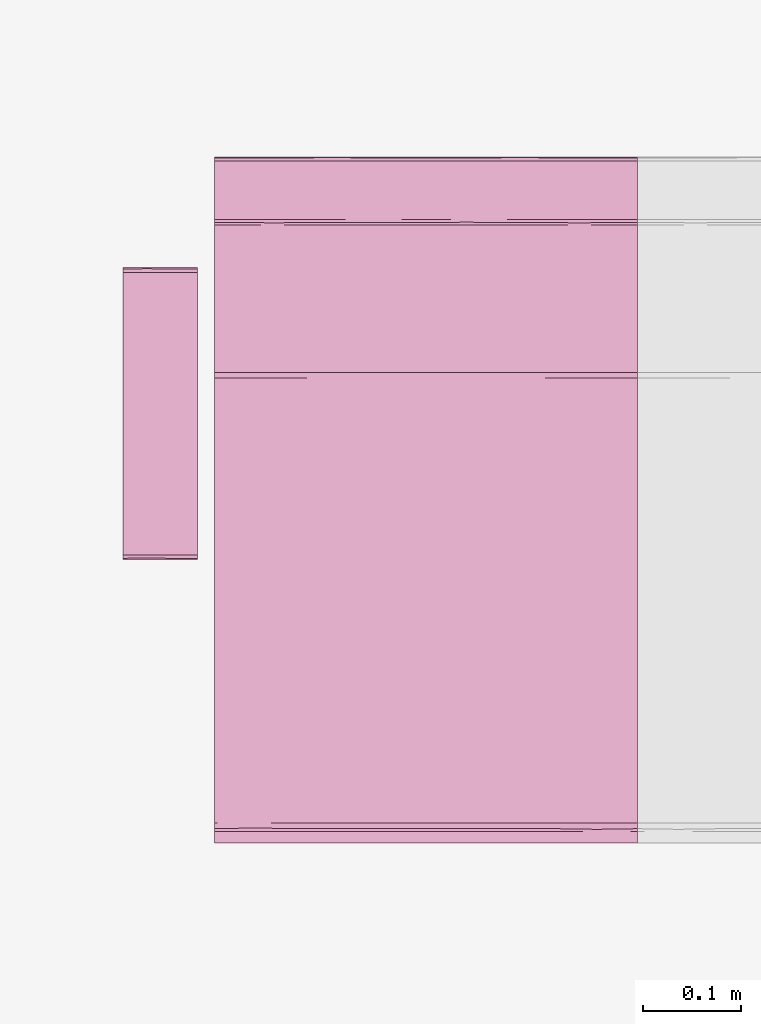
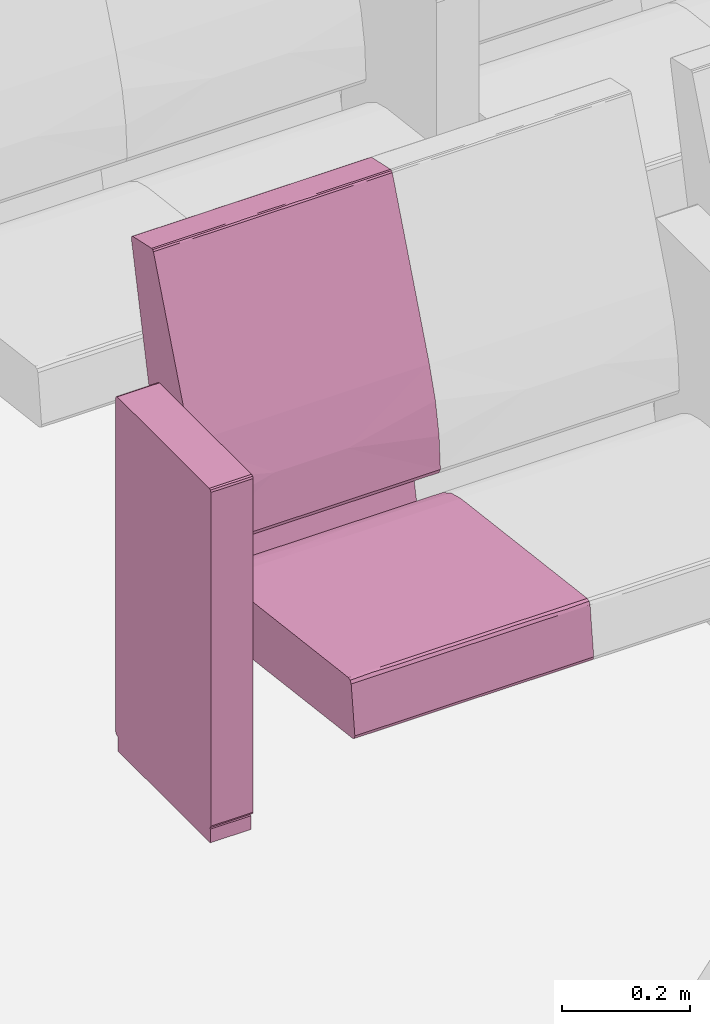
# One storey, part 88 of 155: 1 furnishing.
"""IFC2X3 building model written with IfcOpenShell, lengths in metres."""

import ifcopenshell
import ifcopenshell.guid

model = None  # the IFC model being written
_history = None  # IfcOwnerHistory: only IFC2X3 demands one
_inside = {}  # id of a spatial element -> (the spatial element, [elements in it])
_under = {}  # id of a project, library or spatial element -> (it, [spatial elements below it])
_declared = {}  # id of a project -> (the project, [libraries it declares])
_typed = {}  # id of a type object -> (the type object, [elements of that type])
_made_of = {}  # id of a material, layer set ... -> (it, [elements and type objects made of it])


def new_model(schema):
    """Start an empty IFC model of exactly this schema.

    Asked for "IFC4X3", IfcOpenShell would pick the latest addendum, in which some entities
    have other attributes; the version numbers below select the first issue.
    IFC2X3 requires an IfcOwnerHistory on every rooted entity: one is made here for all.
    """
    global model, _history
    if schema == "IFC4X3":
        model = ifcopenshell.file(schema_version=(4, 3, 0, 0))
    else:
        model = ifcopenshell.file(schema=schema)
    _inside.clear()
    _under.clear()
    _declared.clear()
    _typed.clear()
    _made_of.clear()
    _history = None
    if model.schema == "IFC2X3":
        org = make("IfcOrganization", Name="unknown")
        user = make(
            "IfcPersonAndOrganization",
            ThePerson=make("IfcPerson", FamilyName="unknown"),
            TheOrganization=org,
        )
        app = make(
            "IfcApplication",
            ApplicationDeveloper=org,
            Version="unknown",
            ApplicationFullName="unknown",
            ApplicationIdentifier="unknown",
        )
        _history = make(
            "IfcOwnerHistory",
            OwningUser=user,
            OwningApplication=app,
            ChangeAction="ADDED",
            CreationDate=0,
        )
    return model


def make(cls, **values):
    """One entity of the class cls with the attributes given. An attribute that is None is left unset."""
    return model.create_entity(
        cls, **{name: value for name, value in values.items() if value is not None}
    )


def entity(cls, *values):
    """Any entity or typed value of the class cls, its attributes in the order of the schema. None: left unset."""
    e = model.create_entity(cls)
    for i, value in enumerate(values):
        if value is not None:
            e[i] = value
    return e


def rooted(cls, **values):
    """An entity with a GlobalId (a new one), such as an element, a storey or a relation."""
    return make(cls, GlobalId=ifcopenshell.guid.new(), OwnerHistory=_history, **values)


def si_unit(unit_type, name, prefix=None):
    """IfcSIUnit, for example si_unit("LENGTHUNIT", "METRE", prefix="MILLI")."""
    return make("IfcSIUnit", UnitType=unit_type, Prefix=prefix, Name=name)


def converted_unit(unit_type, name, factor, base, dimensions=None, offset=None):
    """IfcConversionBasedUnit, such as the inch: factor (a typed value) times the base unit."""
    return make(
        "IfcConversionBasedUnit"
        if offset is None
        else "IfcConversionBasedUnitWithOffset",
        ConversionOffset=offset,
        Dimensions=None
        if dimensions is None
        else entity("IfcDimensionalExponents", *dimensions),
        UnitType=unit_type,
        Name=name,
        ConversionFactor=make(
            "IfcMeasureWithUnit", ValueComponent=factor, UnitComponent=base
        ),
    )


def derived_unit(unit_type, elements):
    """IfcDerivedUnit: a product of units, each with its exponent."""
    return make(
        "IfcDerivedUnit",
        Elements=[
            make("IfcDerivedUnitElement", Unit=unit, Exponent=power)
            for unit, power in elements
        ],
        UnitType=unit_type,
    )


def assignment(units):
    """IfcUnitAssignment: the units of a project."""
    return None if units is None else make("IfcUnitAssignment", Units=units)


def point(xyz):
    """IfcCartesianPoint."""
    return None if xyz is None else make("IfcCartesianPoint", Coordinates=xyz)


def direction(xyz):
    """IfcDirection."""
    return None if xyz is None else make("IfcDirection", DirectionRatios=xyz)


def frame(location, z_axis=None, x_axis=None):
    """IfcAxis2Placement3D, a coordinate frame: its origin and axes. An axis left out is left unset."""
    return make(
        "IfcAxis2Placement3D",
        Location=point(location),
        Axis=direction(z_axis),
        RefDirection=direction(x_axis),
    )


def origin():
    """The frame at (0, 0, 0) with its axes left unset."""
    return frame((0.0, 0.0, 0.0))


def place(relative_to, where):
    """IfcLocalPlacement: puts the frame where relative to a parent placement (None: the world)."""
    return make(
        "IfcLocalPlacement", PlacementRelTo=relative_to, RelativePlacement=where
    )


def context(
    kind, dimensions, precision=None, world=None, true_north=None, identifier=None
):
    """IfcGeometricRepresentationContext, for example the 3D "Model" context."""
    return make(
        "IfcGeometricRepresentationContext",
        ContextIdentifier=identifier,
        ContextType=kind,
        CoordinateSpaceDimension=dimensions,
        Precision=precision,
        WorldCoordinateSystem=world,
        TrueNorth=true_north,
    )


def subcontext(parent, identifier, kind, view, scale=None):
    """IfcGeometricRepresentationSubContext, for example "Body" below "Model"."""
    return make(
        "IfcGeometricRepresentationSubContext",
        ContextIdentifier=identifier,
        ContextType=kind,
        ParentContext=parent,
        TargetScale=scale,
        TargetView=view,
    )


def project(units=None, contexts=None):
    """IfcProject with its units and contexts."""
    return rooted(
        "IfcProject",
        Name="project",
        RepresentationContexts=contexts,
        UnitsInContext=assignment(units),
    )


def spatial(cls, under=None, at=None, **own):
    """A site, building, storey or space (cls), placed at a placement, below another one or the project."""
    s = rooted(cls, ObjectPlacement=at, **own)
    if under is not None:
        _under.setdefault(under.id(), (under, []))[1].append(s)
    return s


def faces_of(points, faces, orient=None, outer=None):
    """IfcFace entities. A face is a list of loops; a loop is a list of indices into points, from 0.

    orient and outer hold one flag for each loop. By default every Orientation is true, the
    first loop of a face is its IfcFaceOuterBound and the others are IfcFaceBound.
    """
    made = []
    for i, loops in enumerate(faces):
        bounds = []
        for j, loop in enumerate(loops):
            is_outer = j == 0 if outer is None else outer[i][j]
            bounds.append(
                make(
                    "IfcFaceOuterBound" if is_outer else "IfcFaceBound",
                    Bound=make("IfcPolyLoop", Polygon=[points[k] for k in loop]),
                    Orientation=True if orient is None else orient[i][j],
                )
            )
        made.append(make("IfcFace", Bounds=bounds))
    return made


def faceted_brep(points, faces, orient=None, outer=None, voids=None):
    """IfcFacetedBrep: a solid bounded by flat faces; with voids (closed shells), ...WithVoids."""
    shared = [point(p) for p in points]
    hull = make("IfcClosedShell", CfsFaces=faces_of(shared, faces, orient, outer))
    if voids is None:
        return make("IfcFacetedBrep", Outer=hull)
    return make(
        "IfcFacetedBrepWithVoids",
        Outer=hull,
        Voids=[
            make(cls, CfsFaces=faces_of(shared, fs, o, b)) for cls, fs, o, b in voids
        ],
    )


def shape(context_of_items, identifier, shape_type, items):
    """IfcShapeRepresentation: the items that make up one representation, for example the "Body"."""
    return make(
        "IfcShapeRepresentation",
        ContextOfItems=context_of_items,
        RepresentationIdentifier=identifier,
        RepresentationType=shape_type,
        Items=items,
    )


def source(mapping_origin, context_of_items, identifier, shape_type, items):
    """IfcRepresentationMap: a shape defined once, which mapped items show again and again."""
    return make(
        "IfcRepresentationMap",
        MappingOrigin=mapping_origin,
        MappedRepresentation=shape(context_of_items, identifier, shape_type, items),
    )


def transform(
    local_origin,
    x_axis=None,
    y_axis=None,
    z_axis=None,
    scale=None,
    scale2=None,
    scale3=None,
    uniform=True,
):
    """IfcCartesianTransformationOperator3D, or its non-uniform kind. x_axis, y_axis, z_axis: its Axis1, 2, 3."""
    if uniform:
        return make(
            "IfcCartesianTransformationOperator3D",
            Axis1=direction(x_axis),
            Axis2=direction(y_axis),
            LocalOrigin=point(local_origin),
            Scale=scale,
            Axis3=direction(z_axis),
        )
    return make(
        "IfcCartesianTransformationOperator3DnonUniform",
        Axis1=direction(x_axis),
        Axis2=direction(y_axis),
        LocalOrigin=point(local_origin),
        Scale=scale,
        Axis3=direction(z_axis),
        Scale2=scale2,
        Scale3=scale3,
    )


def mapped(mapping_source, mapping_target):
    """IfcMappedItem: shows the shape of a source again, moved by a transform."""
    return make(
        "IfcMappedItem", MappingSource=mapping_source, MappingTarget=mapping_target
    )


def material(Name=None, Category=None):
    """IfcMaterial."""
    return make("IfcMaterial", Name=Name, Category=Category)


def material_list(materials):
    """IfcMaterialList."""
    return make("IfcMaterialList", Materials=materials)


def made_of(thing, what):
    """Note that an element or type object is made of a material, layer set ...; save() writes the relation."""
    if what is not None:
        _made_of.setdefault(what.id(), (what, []))[1].append(thing)
    return thing


def type_object(cls, material=None, **own):
    """A type object (cls), such as IfcWallType, which elements share."""
    return made_of(rooted(cls, **own), material)


def type_shapes(of_type, sources):
    """Give a type object the sources (RepresentationMaps) that its elements show as mapped items."""
    of_type.RepresentationMaps = sources


def element(
    cls,
    number,
    at=None,
    inside=None,
    cuts=None,
    type_object=None,
    material=None,
    context=None,
    identifier="Body",
    shape_type=None,
    held_by="IfcProductDefinitionShape",
    body=None,
    shapes=None,
    **own,
):
    """One element of the class cls, such as IfcWall. Its Tag is "e" and its number.

    at: its placement. inside: the storey or other place that contains it. cuts: it is an
    opening in that element (IfcRelVoidsElement). A single representation is given by context,
    identifier, shape_type and body (its items); several are given by shapes. held_by: the class
    of the entity that holds the representations. save() writes the other relations.
    """
    e = rooted(cls, Tag="e%d" % number, ObjectPlacement=at, **own)
    if body is not None:
        shapes = [shape(context, identifier, shape_type, body)]
    if shapes is not None:
        e.Representation = make(held_by, Representations=shapes)
    if inside is not None:
        _inside.setdefault(inside.id(), (inside, []))[1].append(e)
    if cuts is not None:
        rooted(
            "IfcRelVoidsElement", RelatingBuildingElement=cuts, RelatedOpeningElement=e
        )
    if type_object is not None:
        _typed.setdefault(type_object.id(), (type_object, []))[1].append(e)
    return made_of(e, material)


def aggregate(whole, parts):
    """IfcRelAggregates: a whole, such as a stair, and the parts it consists of."""
    return rooted("IfcRelAggregates", RelatingObject=whole, RelatedObjects=parts)


def save(model, path):
    """Write the relations noted so far, then the file.

    IfcRelAggregates (storeys below a building ...), IfcRelContainedInSpatialStructure (elements
    in a storey), IfcRelDefinesByType, IfcRelAssociatesMaterial and IfcRelDeclares: one each for
    every whole, place, type object, material and project.
    """
    for whole, parts in _under.values():
        aggregate(whole, parts)
    for where, things in _inside.values():
        rooted(
            "IfcRelContainedInSpatialStructure",
            RelatedElements=things,
            RelatingStructure=where,
        )
    for kind, things in _typed.values():
        rooted("IfcRelDefinesByType", RelatedObjects=things, RelatingType=kind)
    for what, things in _made_of.values():
        rooted("IfcRelAssociatesMaterial", RelatedObjects=things, RelatingMaterial=what)
    for by, libraries in _declared.values():
        rooted("IfcRelDeclares", RelatingContext=by, RelatedDefinitions=libraries)
    model.write(path)


model = new_model("IFC2X3")

# Units and contexts
model_context = context("Model", 3, precision=1e-05, world=origin(), true_north=direction((6.12303176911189e-17, 1.0)))
body_context = subcontext(model_context, "Body", "Model", "MODEL_VIEW")
ifc_project = project(units=[si_unit("LENGTHUNIT", "METRE"), si_unit("AREAUNIT", "SQUARE_METRE"), si_unit("VOLUMEUNIT", "CUBIC_METRE"), converted_unit("PLANEANGLEUNIT", "DEGREE", entity("IfcRatioMeasure", 0.0174532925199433), si_unit("PLANEANGLEUNIT", "RADIAN"), dimensions=[0, 0, 0, 0, 0, 0, 0]), si_unit("MASSUNIT", "GRAM", prefix="KILO"), derived_unit("MASSDENSITYUNIT", [(si_unit("MASSUNIT", "GRAM", prefix="KILO"), 1), (si_unit("LENGTHUNIT", "METRE"), -3)]), si_unit("TIMEUNIT", "SECOND"), si_unit("FREQUENCYUNIT", "HERTZ"), si_unit("THERMODYNAMICTEMPERATUREUNIT", "DEGREE_CELSIUS"), derived_unit("THERMALTRANSMITTANCEUNIT", [(si_unit("MASSUNIT", "GRAM", prefix="KILO"), 1), (si_unit("THERMODYNAMICTEMPERATUREUNIT", "KELVIN"), -1), (si_unit("TIMEUNIT", "SECOND"), -3)]), derived_unit("VOLUMETRICFLOWRATEUNIT", [(si_unit("LENGTHUNIT", "METRE"), 3), (si_unit("TIMEUNIT", "SECOND"), -1)]), si_unit("ELECTRICCURRENTUNIT", "AMPERE"), si_unit("ELECTRICVOLTAGEUNIT", "VOLT"), si_unit("POWERUNIT", "WATT"), si_unit("FORCEUNIT", "NEWTON", prefix="KILO"), si_unit("ILLUMINANCEUNIT", "LUX"), si_unit("LUMINOUSFLUXUNIT", "LUMEN"), si_unit("LUMINOUSINTENSITYUNIT", "CANDELA"), derived_unit("USERDEFINED", [(si_unit("MASSUNIT", "GRAM", prefix="KILO"), -1), (si_unit("LENGTHUNIT", "METRE"), -2), (si_unit("TIMEUNIT", "SECOND"), 3), (si_unit("LUMINOUSFLUXUNIT", "LUMEN"), 1)]), derived_unit("LINEARVELOCITYUNIT", [(si_unit("LENGTHUNIT", "METRE"), 1), (si_unit("TIMEUNIT", "SECOND"), -1)]), si_unit("PRESSUREUNIT", "PASCAL"), derived_unit("USERDEFINED", [(si_unit("LENGTHUNIT", "METRE"), -2), (si_unit("MASSUNIT", "GRAM", prefix="KILO"), 1), (si_unit("TIMEUNIT", "SECOND"), -2)])], contexts=[model_context])

# Site, building, storey, space
site_placement = place(None, frame((26.9889013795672, -17.5624287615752, 0.0)))
site = spatial("IfcSite", under=ifc_project, at=site_placement, Name="Default", CompositionType="ELEMENT")
building_placement = place(site_placement, origin())
building = spatial("IfcBuilding", under=site, at=building_placement, Name="C. C. L. Monsenhor Antônio Sampaio", CompositionType="ELEMENT")
storey_placement = place(building_placement, frame((0.0, 0.0, 1.19999999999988)))
storey = spatial("IfcBuildingStorey", under=building, at=storey_placement, Name="Nível 1.2", CompositionType="ELEMENT", Elevation=1.19999999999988)
space_placement = place(storey_placement, origin())
space = spatial("IfcSpace", under=storey, at=space_placement, Name="94", CompositionType="ELEMENT", InteriorOrExteriorSpace="INTERNAL")

# Furnishing
ifc_material_1 = material(Name="V9 - V9 - Ecopelle_672_658")
ifc_material_2 = material(Name="V9 - V9 - RAL_9006_Grigio")
ifc_material_list_1 = material_list([ifc_material_1, ifc_material_2])
ifc_material_list_2 = material_list([ifc_material_1, ifc_material_2])
furniture_type = type_object("IfcFurnitureType", Name="Cadeira auditório", material=ifc_material_list_2)
shared_shape = source(origin(), body_context, "Body", "Brep", [
    faceted_brep([(0.405536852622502, 0.156348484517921, 0.339809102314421), (0.410560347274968, 0.131924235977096, 0.34246450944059), (0.405536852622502, 0.1075, 0.339809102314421), (0.405536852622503, 0.0537499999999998, 0.339809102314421), (0.410597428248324, 0.084060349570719, 0.342506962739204), (0.41079981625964, 0.0179166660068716, 0.342749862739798), (0.405536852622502, 0.215, 0.339809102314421), (0.410248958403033, 0.173608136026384, 0.342130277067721), (0.412515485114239, 0.185674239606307, 0.348529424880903), (0.412515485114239, 0.143333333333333, 0.348529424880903), (0.410560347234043, -0.131924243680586, 0.342464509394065), (0.405536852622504, -0.156348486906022, 0.33980910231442), (0.405536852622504, -0.1075, 0.33980910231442), (0.405536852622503, 0.0, 0.33980910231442), (0.41251548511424, 0.0, 0.348529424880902), (0.411170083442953, -0.0341365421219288, 0.343251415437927), (0.41059742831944, -0.0840603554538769, 0.342506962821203), (0.41251548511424, -0.143333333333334, 0.348529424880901), (0.412515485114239, 0.0358333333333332, 0.348529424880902), (0.412515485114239, 0.0716666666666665, 0.348529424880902), (0.405536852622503, -0.0537500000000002, 0.33980910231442), (0.412515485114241, -0.185674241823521, 0.348529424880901), (0.410799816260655, -0.215, 0.342749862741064), (0.410248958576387, -0.173608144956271, 0.342130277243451), (0.410799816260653, 0.215, 0.342749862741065), (0.412515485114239, 0.215, 0.348529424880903), (0.412515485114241, -0.215, 0.348529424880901), (0.41251548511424, -0.0716666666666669, 0.348529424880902), (0.405536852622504, -0.215, 0.33980910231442), (-0.0557900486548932, -0.215, 0.28268145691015), (-0.055790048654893, -0.168631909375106, 0.282681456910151), (-0.0557900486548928, -0.138065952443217, 0.282681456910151), (-0.0557900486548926, -0.107499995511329, 0.282681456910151), (-0.0557900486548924, -0.0806249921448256, 0.282681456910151), (-0.0557900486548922, -0.0537499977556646, 0.282681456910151), (-0.0557900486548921, -0.0268750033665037, 0.282681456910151), (-0.0557900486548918, 0.0, 0.28268145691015), (-0.0557900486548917, 0.0268749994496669, 0.282681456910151), (-0.0557900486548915, 0.0537499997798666, 0.282681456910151), (-0.0557900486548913, 0.0806250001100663, 0.282681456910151), (-0.0557900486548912, 0.107499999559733, 0.282681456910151), (-0.055790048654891, 0.134374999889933, 0.282681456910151), (-0.0557900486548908, 0.161250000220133, 0.282681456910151), (-0.0557900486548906, 0.1881249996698, 0.282681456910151), (-0.0557900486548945, 0.215, 0.28268145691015), (-0.0594787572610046, -0.0152829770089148, 0.283700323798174), (-0.0613666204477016, 0.0, 0.287029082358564), (-0.0594787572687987, 0.0179017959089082, 0.283700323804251), (-0.0613666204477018, 0.191815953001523, 0.287029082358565), (-0.0613666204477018, 0.215, 0.287029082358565), (-0.0594787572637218, 0.215, 0.283700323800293), (-0.0593340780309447, 0.0671874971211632, 0.283591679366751), (-0.0613666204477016, 0.030565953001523, 0.287029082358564), (-0.0594787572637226, -0.215, 0.283700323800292), (-0.0593337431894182, -0.184174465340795, 0.283591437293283), (-0.0613666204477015, -0.122263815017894, 0.287029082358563), (-0.0613666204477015, -0.0916978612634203, 0.287029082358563), (-0.0613666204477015, -0.0611319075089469, 0.287029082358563), (-0.0593023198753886, -0.0940625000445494, 0.283568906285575), (-0.059382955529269, 0.118123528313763, 0.28362747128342), (-0.0613666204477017, 0.122263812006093, 0.287029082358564), (-0.0597338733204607, 0.147039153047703, 0.283913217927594), (-0.0613666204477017, 0.168631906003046, 0.287029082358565), (-0.0592501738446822, 0.180223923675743, 0.283532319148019), (-0.0588783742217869, 0.0926899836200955, 0.283298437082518), (-0.0613666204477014, -0.215, 0.287029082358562), (-0.0613666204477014, -0.168631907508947, 0.287029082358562), (-0.0592576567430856, -0.123736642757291, 0.283537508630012), (-0.0594787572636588, -0.153348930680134, 0.283700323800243), (-0.0613666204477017, 0.0916978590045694, 0.287029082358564), (-0.0613666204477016, -0.0305659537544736, 0.287029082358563), (-0.059645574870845, -0.045848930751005, 0.283836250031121), (-0.0613666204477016, 0.0611319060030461, 0.287029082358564), (-0.069340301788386, -0.215, 0.351419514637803), (-0.0693403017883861, -0.143333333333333, 0.351419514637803), (-0.0693403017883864, -0.0716666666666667, 0.351419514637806), (-0.0693403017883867, 0.0, 0.351419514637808), (-0.069340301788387, 0.0716666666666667, 0.351419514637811), (-0.0693403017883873, 0.143333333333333, 0.351419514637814), (-0.0693403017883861, 0.215, 0.351419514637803), (-0.0597085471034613, 0.0, 0.37476954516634), (-0.0645543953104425, 0.112272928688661, 0.369803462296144), (-0.0653387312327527, 0.0126787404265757, 0.368680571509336), (-0.0681665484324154, -0.0888707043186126, 0.36292533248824), (-0.0655136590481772, -0.10440004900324, 0.368411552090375), (-0.0694879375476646, 0.0590582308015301, 0.356377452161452), (-0.0695056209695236, -0.125492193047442, 0.356093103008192), (-0.0597085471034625, -0.110316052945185, 0.374769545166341), (-0.0690003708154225, 0.132942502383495, 0.359900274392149), (-0.0672851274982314, 0.108066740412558, 0.365148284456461), (-0.0676206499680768, 0.215, 0.364371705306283), (-0.0686241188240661, 0.215, 0.356813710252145), (-0.0686241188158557, -0.214999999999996, 0.356813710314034), (-0.0686999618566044, 0.0358333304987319, 0.36116674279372), (-0.0694502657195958, -0.0358333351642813, 0.356863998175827), (-0.0676206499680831, -0.214999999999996, 0.364371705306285), (-0.0636645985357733, -0.214999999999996, 0.369570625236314), (-0.0597085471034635, -0.214999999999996, 0.374769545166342), (-0.0597085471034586, 0.215, 0.374769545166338), (-0.0636645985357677, 0.215, 0.36957062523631), (-0.0597085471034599, 0.110316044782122, 0.374769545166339), (-0.0324117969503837, 0.215, 0.390639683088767), (-0.0324117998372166, 0.0436847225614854, 0.39063968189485), (-0.0018793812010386, 0.215, 0.398686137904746), (-0.041847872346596, -0.0856576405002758, 0.386239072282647), (-0.0324117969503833, -0.215, 0.390639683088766), (-0.00187938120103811, -0.215, 0.398686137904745), (-0.00187938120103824, -0.102488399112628, 0.398686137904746), (-0.0219042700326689, -0.0570631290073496, 0.394412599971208), (-0.00187938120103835, 0.0, 0.398686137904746), (0.392202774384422, 0.215, 0.447486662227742), (0.392202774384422, -0.215, 0.447486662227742), (0.392202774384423, -0.156349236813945, 0.447486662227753), (0.392202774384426, -0.107499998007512, 0.447486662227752), (0.392202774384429, -0.0537500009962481, 0.44748666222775), (0.392202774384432, 0.0, 0.447486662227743), (0.392202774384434, 0.0537499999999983, 0.447486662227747), (0.392202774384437, 0.107499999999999, 0.447486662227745), (0.392202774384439, 0.156349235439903, 0.447486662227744), (0.398104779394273, -0.131924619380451, 0.445856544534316), (0.401125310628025, -0.0976984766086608, 0.440530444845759), (0.397860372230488, -0.0827732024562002, 0.446039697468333), (0.401125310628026, -0.215000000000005, 0.440530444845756), (0.401125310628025, -0.156349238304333, 0.440530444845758), (0.397373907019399, -0.173462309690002, 0.446363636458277), (0.398104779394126, -0.215000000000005, 0.445856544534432), (0.397860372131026, 0.0827731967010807, 0.446039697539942), (0.398104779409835, 0.131924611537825, 0.445856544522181), (0.398104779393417, -0.0237489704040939, 0.445856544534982), (0.398104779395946, 0.0268749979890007, 0.445856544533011), (0.401125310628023, 0.0488492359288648, 0.440530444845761), (0.401125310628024, -0.0488492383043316, 0.440530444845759), (0.398774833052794, 0.173462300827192, 0.445271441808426), (0.401125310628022, 0.097698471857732, 0.440530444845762), (0.401125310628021, 0.215, 0.440530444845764), (0.39810477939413, 0.215, 0.445856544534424), (0.401125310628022, 0.156349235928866, 0.440530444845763), (0.401125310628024, 0.0, 0.44053044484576)], [[[0, 1, 2]], [[3, 4, 5]], [[6, 7, 0]], [[7, 8, 9]], [[10, 11, 12]], [[3, 5, 13]], [[14, 15, 5]], [[16, 17, 10]], [[9, 1, 7]], [[18, 5, 4]], [[4, 9, 19, 18]], [[9, 4, 1]], [[2, 1, 4]], [[13, 15, 20]], [[21, 22, 23]], [[5, 18, 14]], [[24, 25, 8]], [[22, 21, 26]], [[24, 7, 6]], [[23, 11, 10]], [[20, 15, 16]], [[3, 2, 4]], [[14, 27, 15]], [[5, 15, 13]], [[27, 17, 16]], [[10, 12, 16]], [[21, 23, 17]], [[20, 16, 12]], [[15, 27, 16]], [[7, 1, 0]], [[28, 11, 23]], [[8, 7, 24]], [[23, 10, 17]], [[28, 23, 22]], [[28, 29, 30, 31, 32, 33, 34, 35, 36, 37, 38, 39, 40, 41, 42, 43, 44, 6, 0, 2, 3, 13, 20, 12, 11]], [[45, 46, 47]], [[48, 49, 50]], [[51, 47, 52]], [[29, 53, 54]], [[55, 56, 57, 58]], [[59, 60, 61]], [[61, 62, 63]], [[51, 64, 39]], [[65, 66, 54]], [[31, 67, 32]], [[45, 47, 38, 37, 36, 35]], [[68, 31, 30]], [[43, 50, 44]], [[63, 42, 61]], [[48, 50, 63]], [[64, 69, 59]], [[68, 54, 66]], [[63, 62, 48]], [[50, 43, 63]], [[67, 55, 58]], [[61, 42, 41]], [[45, 70, 46]], [[55, 68, 66]], [[71, 33, 58]], [[71, 57, 70]], [[41, 40, 59]], [[60, 62, 61]], [[71, 35, 34, 33]], [[35, 71, 45]], [[47, 46, 52]], [[45, 71, 70]], [[58, 57, 71]], [[32, 58, 33]], [[31, 68, 67]], [[54, 68, 30]], [[29, 54, 30]], [[54, 53, 65]], [[55, 67, 68]], [[32, 67, 58]], [[51, 52, 72, 69]], [[43, 42, 63]], [[41, 59, 61]], [[47, 51, 38]], [[40, 39, 64]], [[38, 51, 39]], [[69, 60, 59]], [[69, 64, 51]], [[40, 64, 59]], [[65, 73, 74, 75, 76, 77, 78, 79, 49, 48, 62, 60, 69, 72, 52, 46, 70, 57, 56, 55, 66]], [[80, 81, 82]], [[82, 83, 84]], [[78, 77, 76, 85]], [[86, 75, 74]], [[84, 80, 82]], [[80, 84, 87]], [[88, 89, 90]], [[91, 79, 78]], [[74, 73, 92]], [[85, 88, 91]], [[81, 89, 82]], [[93, 94, 83]], [[94, 86, 83]], [[85, 76, 94]], [[92, 86, 74]], [[85, 94, 93]], [[83, 92, 95]], [[75, 94, 76]], [[93, 83, 82]], [[95, 96, 84]], [[88, 85, 93]], [[96, 97, 87]], [[98, 99, 100]], [[78, 85, 91]], [[89, 88, 93]], [[90, 91, 88]], [[93, 82, 89]], [[81, 99, 89]], [[99, 90, 89]], [[100, 81, 80]], [[100, 99, 81]], [[83, 86, 92]], [[75, 86, 94]], [[95, 84, 83]], [[87, 84, 96]], [[101, 102, 103]], [[104, 80, 87, 97]], [[105, 106, 107]], [[107, 108, 105]], [[103, 102, 109]], [[104, 102, 80]], [[104, 108, 102]], [[98, 102, 101]], [[105, 104, 97]], [[105, 108, 104]], [[102, 98, 100, 80]], [[109, 108, 107]], [[109, 102, 108]], [[110, 103, 109, 107, 106, 111, 112, 113, 114, 115, 116, 117, 118]], [[119, 120, 121]], [[122, 123, 124]], [[111, 125, 124]], [[117, 116, 126]], [[124, 119, 112]], [[113, 112, 119]], [[127, 118, 117]], [[115, 114, 128, 129, 116]], [[129, 130, 126]], [[121, 131, 128]], [[127, 132, 118]], [[110, 118, 132]], [[127, 126, 133]], [[119, 124, 123]], [[134, 135, 132]], [[136, 132, 127]], [[120, 119, 123]], [[133, 136, 127]], [[137, 130, 129, 128, 131]], [[126, 127, 117]], [[130, 133, 126]], [[113, 119, 121]], [[129, 126, 116]], [[128, 114, 121]], [[114, 113, 121]], [[131, 121, 120]], [[111, 124, 112]], [[124, 125, 122]], [[134, 132, 136]], [[132, 135, 110]], [[19, 9, 8, 25, 134, 136, 133, 130, 137, 131, 120, 123, 122, 26, 21, 17, 27, 14, 18]], [[65, 53, 29, 28, 22, 26, 122, 125, 111, 106, 105, 97, 96, 95, 92, 73]], [[98, 101, 103, 110, 135, 134, 25, 24, 6, 44, 50, 49, 79, 91, 90, 99]]]),
    faceted_brep([(0.123144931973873, -0.283972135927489, 0.673627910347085), (0.12334838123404, -0.259944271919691, 0.6734355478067), (0.119812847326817, -0.27, 0.674900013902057), (0.124812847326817, -0.27, 0.669900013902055), (0.12334838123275, -0.232, 0.673435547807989), (0.119812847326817, -0.232, 0.674900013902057), (0.124812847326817, -0.308, 0.669900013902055), (0.119812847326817, -0.308, 0.674900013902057), (0.124812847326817, -0.249888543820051, 0.669900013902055), (0.124812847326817, -0.232, 0.669900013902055), (0.12334838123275, -0.308, 0.673435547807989), (0.124812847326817, -0.27, 0.035), (0.124812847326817, -0.232, 0.035), (0.124812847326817, -0.308, 0.0350000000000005), (0.123540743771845, -0.283972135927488, 0.0316679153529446), (0.12334838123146, -0.25994427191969, 0.0314644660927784), (0.119812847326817, -0.27, 0.0300000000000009), (0.12334838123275, -0.232, 0.0314644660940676), (0.119812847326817, -0.308, 0.0300000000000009), (0.119812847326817, -0.249888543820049, 0.030000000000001), (0.119812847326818, -0.232, 0.030000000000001), (0.123348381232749, -0.308, 0.0314644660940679), (-0.167179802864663, -0.308, 0.0300000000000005), (-0.167179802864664, -0.27, 0.0300000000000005), (-0.167179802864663, -0.232, 0.0300000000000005), (-0.17051188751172, -0.283972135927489, 0.0312721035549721), (-0.170715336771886, -0.25994427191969, 0.0314644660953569), (-0.172179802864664, -0.27, 0.0350000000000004), (-0.170715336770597, -0.232, 0.0314644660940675), (-0.172179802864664, -0.308, 0.0350000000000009), (-0.172179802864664, -0.24988854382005, 0.0350000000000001), (-0.172179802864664, -0.232, 0.0349999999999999), (-0.170715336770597, -0.308, 0.0314644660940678), (-0.172179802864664, -0.308, 0.669900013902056), (-0.172179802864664, -0.27, 0.669900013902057), (-0.172179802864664, -0.232, 0.669900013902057), (-0.170907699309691, -0.283972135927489, 0.673232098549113), (-0.170715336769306, -0.259944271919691, 0.673435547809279), (-0.167179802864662, -0.27, 0.674900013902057), (-0.170715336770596, -0.232, 0.67343554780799), (-0.167179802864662, -0.308, 0.674900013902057), (-0.167179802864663, -0.249888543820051, 0.674900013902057), (-0.167179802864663, -0.232, 0.674900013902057), (-0.170715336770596, -0.308, 0.67343554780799)], [[[0, 1, 2]], [[1, 0, 3]], [[1, 4, 5, 2]], [[6, 3, 0]], [[7, 0, 2]], [[4, 1, 3, 8, 9]], [[10, 0, 7]], [[0, 10, 6]], [[11, 12, 9, 8, 3, 6, 13]], [[14, 15, 11]], [[15, 14, 16]], [[15, 17, 12, 11]], [[18, 16, 14]], [[13, 14, 11]], [[17, 15, 16, 19, 20]], [[21, 14, 13]], [[14, 21, 18]], [[18, 22, 23, 24, 20, 19, 16]], [[25, 26, 23]], [[26, 25, 27]], [[26, 28, 24, 23]], [[29, 27, 25]], [[22, 25, 23]], [[28, 26, 27, 30, 31]], [[32, 25, 22]], [[25, 32, 29]], [[27, 29, 33, 34, 35, 31, 30]], [[36, 37, 34]], [[37, 36, 38]], [[37, 39, 35, 34]], [[40, 38, 36]], [[33, 36, 34]], [[39, 37, 38, 41, 42]], [[43, 36, 33]], [[36, 43, 40]], [[40, 7, 2, 5, 42, 41, 38]], [[35, 39, 42, 5, 4, 9, 12, 17, 20, 24, 28, 31]], [[29, 32, 22, 18, 21, 13, 6, 10, 7, 40, 43, 33]]]),
    faceted_brep([(-0.0695672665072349, 0.215, 0.476508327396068), (-0.074405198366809, 0.0524423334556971, 0.506888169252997), (-0.0655618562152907, 0.215, 0.415143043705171), (-0.0744051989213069, -0.0780075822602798, 0.506888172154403), (-0.0655618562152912, 0.0, 0.415143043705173), (-0.0655618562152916, -0.215, 0.415143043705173), (-0.0655618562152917, -0.1075, 0.415143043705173), (-0.0655618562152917, 0.1075, 0.415143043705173), (-0.0695672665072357, -0.215, 0.476508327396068), (-0.081111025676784, -0.215, 0.536911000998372), (-0.0811110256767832, 0.215, 0.536911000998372), (-0.100016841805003, 0.215, 0.595428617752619), (-0.100016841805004, 0.0, 0.595428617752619), (-0.100016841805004, -0.215, 0.595428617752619), (-0.0698317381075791, 0.0358333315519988, 0.406528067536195), (-0.0792851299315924, 0.0, 0.404772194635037), (-0.0792851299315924, 0.0716666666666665, 0.404772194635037), (-0.0792851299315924, -0.215, 0.404772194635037), (-0.0792851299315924, -0.143333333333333, 0.404772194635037), (-0.0698317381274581, -0.215, 0.406528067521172), (-0.0792851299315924, 0.143333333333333, 0.404772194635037), (-0.0792851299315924, 0.215, 0.404772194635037), (-0.0698317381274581, 0.215, 0.406528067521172), (-0.0694171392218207, 0.140338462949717, 0.406857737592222), (-0.0708115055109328, -0.0356393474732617, 0.405868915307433), (-0.0703502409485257, -0.107500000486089, 0.406159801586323), (-0.0792851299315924, -0.0716666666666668, 0.404772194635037), (-0.163837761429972, -0.215, 0.420611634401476), (-0.163837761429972, 0.215, 0.420611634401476), (-0.123612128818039, 0.215, 0.235917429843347), (-0.123612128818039, -0.215, 0.235917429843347), (-0.142059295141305, -0.215, 0.231899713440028), (-0.142059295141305, 0.215, 0.231899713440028), (-0.235388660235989, -0.215, 0.652619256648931), (-0.235388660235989, 0.215, 0.652619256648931), (-0.28428001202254, -0.215, 0.873004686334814), (-0.284280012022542, -0.191295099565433, 0.873004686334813), (-0.284280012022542, -0.161249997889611, 0.873004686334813), (-0.284280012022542, -0.134374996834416, 0.873004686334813), (-0.284280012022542, -0.107499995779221, 0.873004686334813), (-0.284280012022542, -0.0806249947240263, 0.873004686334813), (-0.284280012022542, -0.0537499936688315, 0.873004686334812), (-0.284280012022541, -0.0268749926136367, 0.873004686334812), (-0.28428001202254, 0.0, 0.873004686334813), (-0.284280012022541, 0.0268749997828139, 0.873004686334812), (-0.284280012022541, 0.0537500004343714, 0.873004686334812), (-0.284280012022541, 0.0806250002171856, 0.873004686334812), (-0.284280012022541, 0.1075, 0.873004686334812), (-0.284280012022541, 0.134374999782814, 0.873004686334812), (-0.28428001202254, 0.161249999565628, 0.873004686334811), (-0.28428001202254, 0.191295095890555, 0.873004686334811), (-0.28428001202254, 0.215, 0.873004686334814), (-0.283746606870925, 0.0872244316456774, 0.876674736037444), (-0.283504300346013, 0.0569644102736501, 0.877068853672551), (-0.283567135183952, -0.15546176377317, 0.876973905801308), (-0.283641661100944, -0.12093750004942, 0.87685511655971), (-0.283567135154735, 0.155461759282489, 0.876973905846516), (-0.28330409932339, 0.185293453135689, 0.877344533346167), (-0.283641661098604, 0.0179166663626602, 0.876855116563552), (-0.283641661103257, -0.0136463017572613, 0.876855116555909), (-0.280514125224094, -0.0358333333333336, 0.879190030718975), (-0.280514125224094, 0.0, 0.879190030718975), (-0.280514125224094, 0.0358333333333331, 0.879190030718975), (-0.280514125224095, -0.143333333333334, 0.879190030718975), (-0.280514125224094, -0.1075, 0.879190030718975), (-0.280514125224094, -0.071666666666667, 0.879190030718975), (-0.283746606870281, -0.0872244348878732, 0.876674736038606), (-0.280514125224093, 0.0716666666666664, 0.879190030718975), (-0.280514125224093, 0.1075, 0.879190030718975), (-0.283641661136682, 0.120937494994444, 0.876855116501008), (-0.280514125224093, 0.143333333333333, 0.879190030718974), (-0.283641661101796, 0.215, 0.876855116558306), (-0.283641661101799, -0.215, 0.876855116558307), (-0.283304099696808, -0.18529345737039, 0.877344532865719), (-0.280514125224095, -0.167590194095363, 0.879190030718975), (-0.280514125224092, 0.215, 0.879190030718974), (-0.280514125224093, 0.167590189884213, 0.879190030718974), (-0.280514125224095, -0.215, 0.879190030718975), (-0.283504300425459, -0.0569644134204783, 0.8770688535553), (-0.22111253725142, 0.215, 0.892176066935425), (-0.22111253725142, -0.215, 0.892176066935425), (-0.221112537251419, -0.191815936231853, 0.892176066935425), (-0.221112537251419, -0.161250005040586, 0.892176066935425), (-0.221112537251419, -0.134375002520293, 0.892176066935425), (-0.221112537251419, -0.1075, 0.892176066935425), (-0.221112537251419, -0.080624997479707, 0.892176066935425), (-0.221112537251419, -0.0537499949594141, 0.892176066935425), (-0.221112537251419, -0.0268750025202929, 0.892176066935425), (-0.221112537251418, 0.0, 0.892176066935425), (-0.221112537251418, 0.0268750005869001, 0.892176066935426), (-0.221112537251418, 0.05375000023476, 0.892176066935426), (-0.221112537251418, 0.0806249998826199, 0.892176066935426), (-0.221112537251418, 0.10749999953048, 0.892176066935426), (-0.221112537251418, 0.13437499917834, 0.892176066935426), (-0.221112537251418, 0.16124999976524, 0.892176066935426), (-0.221112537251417, 0.19181594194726, 0.892176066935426), (-0.215419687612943, 0.0, 0.889191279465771), (-0.215419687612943, 0.0358333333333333, 0.889191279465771), (-0.217722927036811, 0.0162353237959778, 0.891719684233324), (-0.217722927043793, -0.0134375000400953, 0.891719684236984), (-0.215419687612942, -0.191815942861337, 0.889191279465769), (-0.215419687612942, -0.168631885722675, 0.889191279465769), (-0.217722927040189, -0.182482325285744, 0.891719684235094), (-0.217722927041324, -0.215, 0.891719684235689), (-0.215419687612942, -0.215, 0.889191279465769), (-0.215419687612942, -0.1075, 0.88919127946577), (-0.215419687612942, -0.0716666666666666, 0.88919127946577), (-0.217722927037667, -0.0912646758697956, 0.891719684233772), (-0.217722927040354, -0.120937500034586, 0.89171968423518), (-0.215419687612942, -0.143333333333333, 0.88919127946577), (-0.215419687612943, 0.191815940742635, 0.889191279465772), (-0.215419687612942, 0.215, 0.889191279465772), (-0.217722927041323, 0.215, 0.89171968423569), (-0.217722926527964, 0.190103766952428, 0.891719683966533), (-0.217722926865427, 0.0912646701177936, 0.891719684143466), (-0.217816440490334, 0.0647800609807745, 0.891767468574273), (-0.215419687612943, 0.0716666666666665, 0.889191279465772), (-0.217816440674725, -0.0647800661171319, 0.891767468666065), (-0.2179983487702, -0.0390825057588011, 0.891853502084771), (-0.217558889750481, -0.155982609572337, 0.891629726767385), (-0.217722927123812, 0.120937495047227, 0.891719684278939), (-0.215419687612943, 0.16863188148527, 0.889191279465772), (-0.215419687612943, 0.143333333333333, 0.889191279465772), (-0.217558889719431, 0.15598260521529, 0.891629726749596), (-0.215419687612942, -0.0358333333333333, 0.889191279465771), (-0.215419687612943, 0.1075, 0.889191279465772), (-0.218257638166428, 0.0404491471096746, 0.891961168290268)], [[[0, 1, 2]], [[1, 3, 4]], [[3, 5, 6, 4]], [[1, 4, 7, 2]], [[5, 3, 8]], [[8, 3, 9]], [[0, 10, 1]], [[11, 12, 1]], [[3, 13, 9]], [[3, 12, 13]], [[11, 1, 10]], [[3, 1, 12]], [[14, 15, 16]], [[17, 18, 19]], [[20, 21, 22]], [[2, 23, 22]], [[14, 7, 4]], [[14, 24, 15]], [[6, 25, 24]], [[22, 23, 20]], [[14, 23, 7]], [[19, 6, 5]], [[4, 24, 14]], [[16, 23, 14]], [[16, 20, 23]], [[26, 25, 18]], [[25, 19, 18]], [[15, 24, 26]], [[23, 2, 7]], [[19, 25, 6]], [[26, 24, 25]], [[6, 24, 4]], [[15, 26, 18, 17, 27, 28, 21, 20, 16]], [[29, 28, 27, 30]], [[30, 31, 32, 29]], [[32, 31, 33, 34]], [[34, 33, 35, 36, 37, 38, 39, 40, 41, 42, 43, 44, 45, 46, 47, 48, 49, 50, 51]], [[52, 46, 53]], [[38, 54, 55]], [[56, 57, 49]], [[58, 59, 60, 61, 62]], [[63, 64, 55]], [[64, 65, 66]], [[52, 67, 68]], [[69, 70, 56]], [[49, 57, 50]], [[38, 55, 39]], [[71, 51, 50]], [[36, 35, 72]], [[59, 58, 44, 43, 42]], [[73, 74, 54]], [[55, 66, 39]], [[75, 57, 76]], [[77, 74, 73]], [[69, 52, 68]], [[37, 36, 73]], [[54, 74, 63]], [[56, 76, 57]], [[36, 72, 73]], [[75, 71, 57]], [[70, 76, 56]], [[52, 69, 47]], [[48, 47, 69]], [[42, 78, 59]], [[66, 55, 64]], [[50, 57, 71]], [[73, 54, 37]], [[77, 73, 72]], [[48, 69, 56]], [[56, 49, 48]], [[69, 68, 70]], [[53, 46, 45, 44]], [[58, 62, 53]], [[53, 44, 58]], [[38, 37, 54]], [[63, 55, 54]], [[78, 66, 65]], [[78, 40, 66]], [[67, 52, 53]], [[78, 42, 41, 40]], [[65, 60, 78]], [[59, 78, 60]], [[52, 47, 46]], [[40, 39, 66]], [[62, 67, 53]], [[79, 75, 76, 70, 68, 67, 62, 61, 60, 65, 64, 63, 74, 77, 80, 81, 82, 83, 84, 85, 86, 87, 88, 89, 90, 91, 92, 93, 94, 95]], [[96, 97, 98, 99]], [[100, 101, 102, 103, 104]], [[105, 106, 107, 108, 109]], [[110, 111, 112]], [[113, 112, 95]], [[114, 115, 116]], [[117, 118, 86]], [[82, 119, 83]], [[102, 82, 81, 80, 103]], [[112, 79, 95]], [[108, 107, 85, 84, 83]], [[88, 87, 99, 98, 89]], [[119, 101, 109]], [[93, 92, 120]], [[117, 85, 107]], [[113, 121, 110]], [[122, 121, 123]], [[113, 94, 123]], [[124, 99, 118]], [[122, 123, 120]], [[108, 119, 109]], [[113, 110, 112]], [[102, 101, 119]], [[119, 108, 83]], [[114, 125, 120]], [[123, 94, 93]], [[93, 120, 123]], [[114, 120, 92]], [[122, 120, 125]], [[117, 107, 106]], [[114, 92, 91]], [[116, 125, 114]], [[115, 91, 90]], [[85, 117, 86]], [[126, 89, 98]], [[117, 106, 124]], [[118, 99, 87]], [[124, 96, 99]], [[97, 116, 115]], [[97, 115, 126]], [[86, 118, 87]], [[124, 118, 117]], [[91, 115, 114]], [[115, 90, 126]], [[89, 126, 90]], [[97, 126, 98]], [[82, 102, 119]], [[94, 113, 95]], [[121, 113, 123]], [[11, 111, 110, 121, 122, 125, 116, 97, 96, 124, 106, 105, 109, 101, 100, 104, 13, 12]], [[27, 17, 19, 5, 8, 9, 13, 104, 103, 80, 77, 72, 35, 33, 31, 30]], [[51, 71, 75, 79, 112, 111, 11, 10, 0, 2, 22, 21, 28, 29, 32, 34]]]),
    faceted_brep([(0.120312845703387, -0.2335, 0.0), (0.120312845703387, -0.2335, 0.0260000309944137), (0.120312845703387, -0.249500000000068, 0.0260000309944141), (0.120312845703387, -0.27, 0.0260000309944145), (0.120312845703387, -0.3065, 0.0260000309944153), (0.120312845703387, -0.3065, 0.0), (-0.167687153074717, -0.3065, 0.0), (-0.167687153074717, -0.2335, 0.0), (-0.167687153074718, -0.27, 0.0260000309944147), (-0.167687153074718, -0.2335, 0.0260000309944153), (-0.167687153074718, -0.3065, 0.0260000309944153), (-0.166521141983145, -0.233500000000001, 0.0288228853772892), (-0.166521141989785, -0.257382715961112, 0.0288228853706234), (-0.163702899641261, -0.233500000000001, 0.0300000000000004), (-0.163702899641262, -0.3065, 0.0300000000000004), (-0.16652114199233, -0.279986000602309, 0.0288228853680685), (-0.166521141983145, -0.3065, 0.0288228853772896), (-0.163702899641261, -0.27, 0.0300000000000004), (0.116297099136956, -0.3065, 0.0300000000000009), (0.116297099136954, -0.269999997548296, 0.0300000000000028), (0.116297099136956, -0.2335, 0.0300000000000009), (0.119033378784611, -0.283124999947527, 0.0289323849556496), (0.1191357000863, -0.2335, 0.0288340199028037), (0.119135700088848, -0.259750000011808, 0.0288340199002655), (0.119135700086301, -0.3065, 0.0288340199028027)], [[[0, 1, 2, 3, 4, 5]], [[0, 5, 6, 7]], [[8, 9, 7, 6, 10]], [[11, 12, 13]], [[14, 15, 16]], [[15, 14, 17, 13, 12]], [[9, 8, 12, 11]], [[16, 15, 10]], [[8, 10, 15, 12]], [[14, 18, 19, 20, 13, 17]], [[21, 4, 3]], [[22, 20, 19, 23]], [[3, 2, 1, 22, 23]], [[24, 21, 18]], [[21, 3, 23]], [[18, 21, 19]], [[21, 24, 4]], [[21, 23, 19]], [[6, 5, 4, 24, 18, 14, 16, 10]], [[7, 9, 11, 13, 20, 22, 1, 0]]]),
])
type_shapes(furniture_type, [shared_shape])
furnishing_placement = place(space_placement, frame((-9.03594929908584, -16.2852332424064, 0.0), z_axis=(0.0, 0.0, 1.0), x_axis=(0.0, -1.0, 0.0)))
element("IfcFurnishingElement", 1, at=furnishing_placement, inside=space, type_object=furniture_type, material=ifc_material_list_1, Name="cadeira auditório pcd:Cadeira auditório", ObjectType="Cadeira auditório", context=body_context, shape_type="MappedRepresentation", body=[
    mapped(shared_shape, transform((0.0, 0.0, 0.0), scale=1.0)),
])

save(model, "model.ifc")
